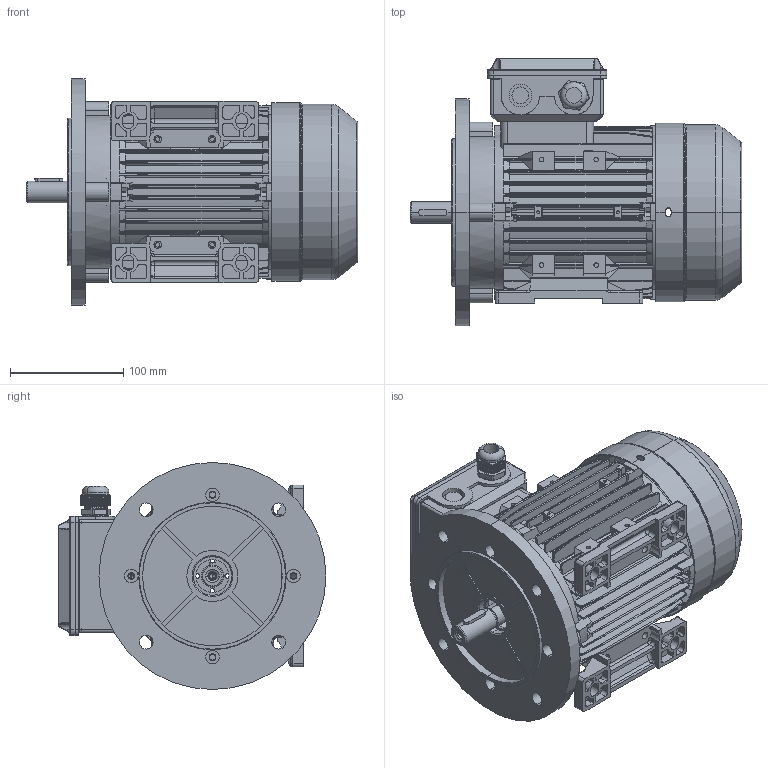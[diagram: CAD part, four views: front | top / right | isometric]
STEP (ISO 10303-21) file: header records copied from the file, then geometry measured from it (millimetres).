
FILE_DESCRIPTION (( 'STEP AP203' ), '1' );
FILE_NAME ('ME80 assembly B35.STEP', '2016-04-29T07:52:07', ( 'PC' ), ( 'Microsoft' ), 'SwSTEP 2.0', 'SolidWorks 2014', '' );
FILE_SCHEMA (( 'CONFIG_CONTROL_DESIGN' ));
Length unit declared in the file: millimetre
Products named in the file (9): MS100諉盄碟裔; ME80菁褐; ME80傷裔B5; ME80儂褲_樓馱; M80-Shaft drive end_S-2P; ME80 assembly B35; MS100諉盄碟釱; M20 cable gland; ME80瑞欶_076
Assembly tree (9 placements, depth 2):
  ME80 assembly B35
    ME80儂褲_樓馱
    ME80瑞欶_076
    ME80傷裔B5
    MS100諉盄碟釱
    MS100諉盄碟裔
    M80-Shaft drive end_S-2P
    M20 cable gland
    ME80菁褐  x2
Bounding box: 292.49 x 236 x 200 mm (x, y, z)
Volume: 927484.5 mm3; surface area: 581534.7 mm2
Topology: 9 solids, 9 shells, 2991 faces, 8107 edges, 5195 vertices
Faces by surface type: plane 1367, cylinder 1016, bspline 384, cone 134, torus 74, sphere 16
Entity records: 114651 total; most frequent: CARTESIAN_POINT 45820, ORIENTED_EDGE 15256, DIRECTION 12637, EDGE_CURVE 7628, VERTEX_POINT 4911, AXIS2_PLACEMENT_3D 4290, LINE 4057, VECTOR 4057
